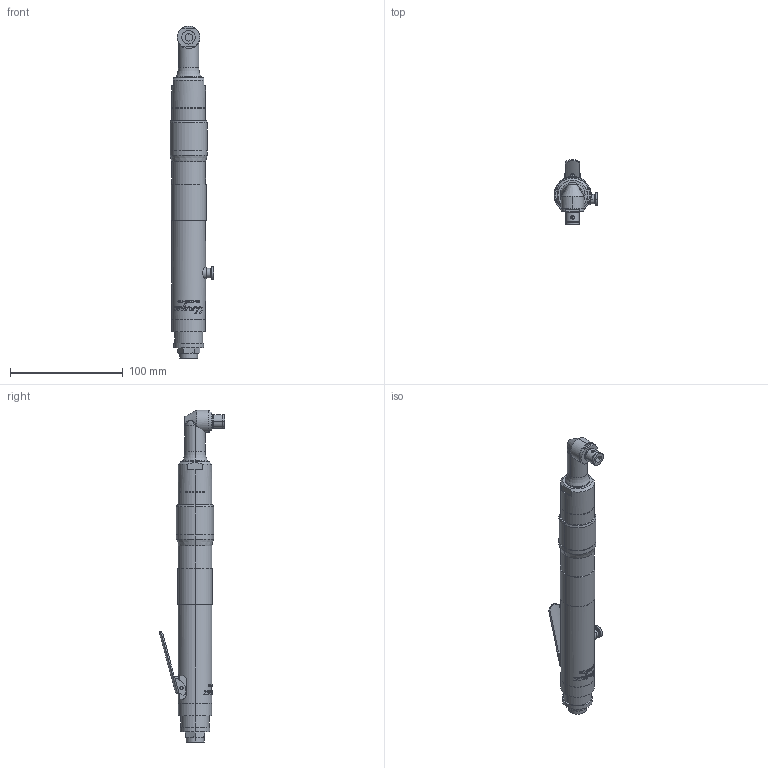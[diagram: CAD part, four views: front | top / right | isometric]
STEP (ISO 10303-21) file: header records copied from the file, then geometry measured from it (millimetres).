
FILE_DESCRIPTION (( 'STEP AP203' ), '1' );
FILE_NAME ('US-LT30B-11C.STEP', '2006-03-22T04:00:28', ( '' ), ( '' ), 'SwSTEP 2.0', 'SolidWorks 2003240', '' );
FILE_SCHEMA (( 'CONFIG_CONTROL_DESIGN' ));
Length unit declared in the file: millimetre
Products named in the file (9): 4694305_US-LT30B-11C_蹬怮椔; 7001071_US-LT30B-11C_蹬怮椔; 8930561_US-LT30B-11C_蹬怮椔; 9810020_US-LT30B-11C_蹬怮椔; US-LT30B-11C; 4694417_US-LT30B-11C_蹬怮椔; 4693696_US-LT30B-11C_蹬怮椔; 4690255_US-LT30B-11C_蹬怮椔; 4691145_US-LT30B-11C_蹬怮椔
Assembly tree (8 placements, depth 2):
  US-LT30B-11C
    9810020_US-LT30B-11C_蹬怮椔
    4694305_US-LT30B-11C_蹬怮椔
    7001071_US-LT30B-11C_蹬怮椔
    4693696_US-LT30B-11C_蹬怮椔
    4690255_US-LT30B-11C_蹬怮椔
    4694417_US-LT30B-11C_蹬怮椔
    8930561_US-LT30B-11C_蹬怮椔
    4691145_US-LT30B-11C_蹬怮椔
Bounding box: 39 x 58.36 x 295 mm (x, y, z)
Volume: 189109.3 mm3; surface area: 36238.5 mm2
Topology: 8 solids, 8 shells, 476 faces, 1210 edges, 792 vertices
Faces by surface type: plane 167, cylinder 163, bspline 119, cone 19, sphere 6, torus 2
Entity records: 24273 total; most frequent: CARTESIAN_POINT 12796, ORIENTED_EDGE 2406, DIRECTION 1815, EDGE_CURVE 1203, VERTEX_POINT 789, AXIS2_PLACEMENT_3D 668, EDGE_LOOP 528, VECTOR 479
